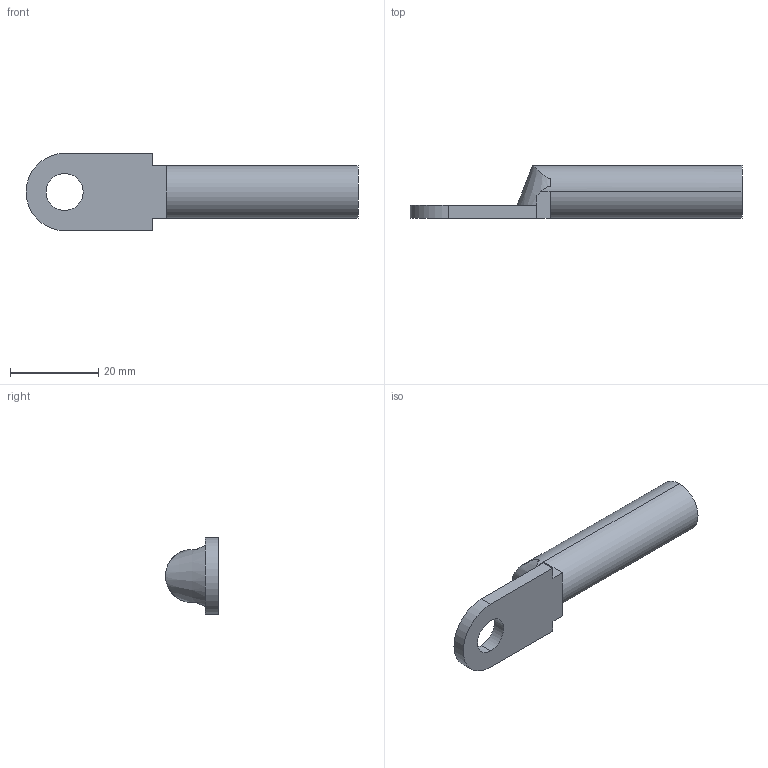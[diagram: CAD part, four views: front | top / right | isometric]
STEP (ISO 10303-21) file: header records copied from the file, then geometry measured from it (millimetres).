
FILE_DESCRIPTION (( 'STEP AP214' ), '1' );
FILE_NAME ('DL-25-8.STEP', '2020-04-24T12:18:10', ( '' ), ( '' ), 'SwSTEP 2.0', 'SolidWorks 2018', '' );
FILE_SCHEMA (( 'AUTOMOTIVE_DESIGN' ));
Length unit declared in the file: millimetre
Products named in the file (1): DL-25-8
Bounding box: 75.25 x 12 x 17.5 mm (x, y, z)
Volume: 4962.4 mm3; surface area: 4083.2 mm2
Topology: 1 solids, 1 shells, 22 faces, 54 edges, 35 vertices
Faces by surface type: plane 14, cylinder 7, cone 1
Entity records: 744 total; most frequent: CARTESIAN_POINT 181, DIRECTION 110, ORIENTED_EDGE 108, EDGE_CURVE 54, AXIS2_PLACEMENT_3D 40, VERTEX_POINT 35, VECTOR 30, LINE 30
